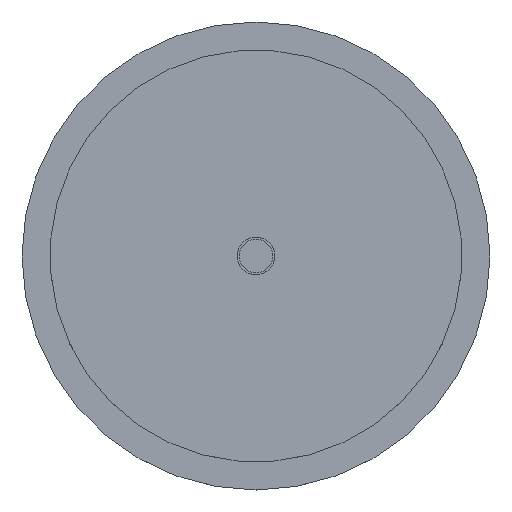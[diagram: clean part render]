
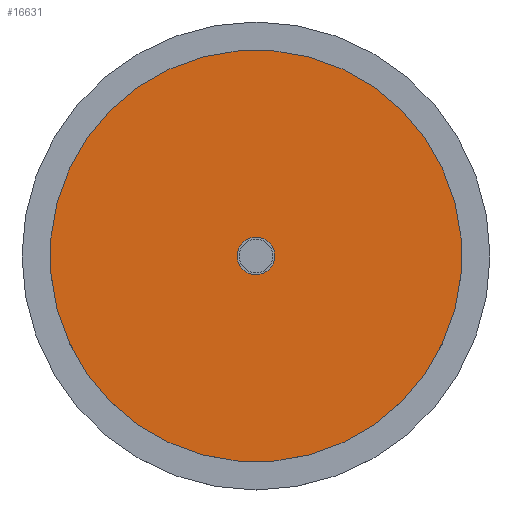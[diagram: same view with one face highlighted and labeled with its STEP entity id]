
A CAD part, top view. The second image highlights one B-rep face of the part: STEP entity #16631.
In plain terms, the highlighted planar face has unit normal (0, 0, 1).
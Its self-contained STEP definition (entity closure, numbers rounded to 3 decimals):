
#29=FACE_BOUND('',#2120,.T.);
#61=CIRCLE('',#17680,5.);
#67=CIRCLE('',#17690,55.);
#1220=FACE_OUTER_BOUND('',#2119,.T.);
#2119=EDGE_LOOP('',(#13326));
#2120=EDGE_LOOP('',(#13327));
#7265=VERTEX_POINT('',#25845);
#7271=VERTEX_POINT('',#25863);
#9366=EDGE_CURVE('',#7265,#7265,#61,.T.);
#9374=EDGE_CURVE('',#7271,#7271,#67,.T.);
#13326=ORIENTED_EDGE('',*,*,#9374,.F.);
#13327=ORIENTED_EDGE('',*,*,#9366,.F.);
#14749=PLANE('',#17691);
#16631=ADVANCED_FACE('',(#1220,#29),#14749,.F.);
#17680=AXIS2_PLACEMENT_3D('',#25847,#21428,#21429);
#17690=AXIS2_PLACEMENT_3D('',#25865,#21450,#21451);
#17691=AXIS2_PLACEMENT_3D('',#25866,#21452,#21453);
#21428=DIRECTION('center_axis',(0.,0.,
1.));
#21429=DIRECTION('ref_axis',(0.075,0.997,0.));
#21450=DIRECTION('center_axis',(0.,0.,
-1.));
#21451=DIRECTION('ref_axis',(0.707,0.707,0.));
#21452=DIRECTION('center_axis',(0.,0.,
-1.));
#21453=DIRECTION('ref_axis',(0.707,0.707,0.));
#25845=CARTESIAN_POINT('',(-5.711,-9.498,-34.617));
#25847=CARTESIAN_POINT('Origin',(-5.335,-4.512,-34.617));
#25863=CARTESIAN_POINT('',(-44.226,-43.403,-34.617));
#25865=CARTESIAN_POINT('Origin',(-5.335,-4.512,-34.617));
#25866=CARTESIAN_POINT('Origin',(-5.335,-4.512,-34.617));
